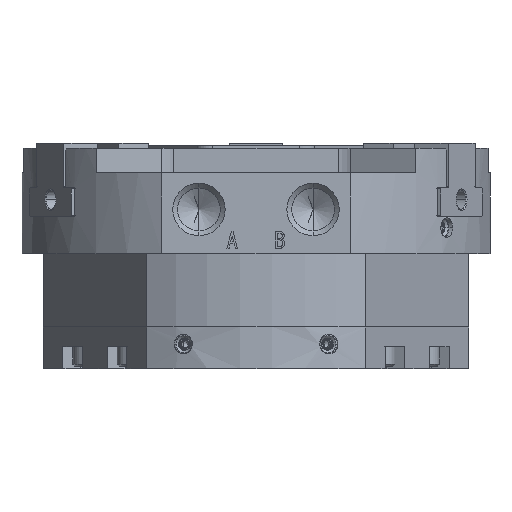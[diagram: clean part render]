
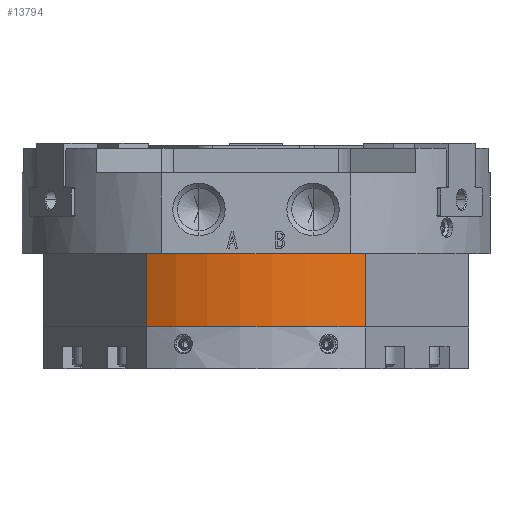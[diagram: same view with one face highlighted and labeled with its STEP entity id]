
A CAD part, front view. The second image highlights one B-rep face of the part: STEP entity #13794.
In plain terms, the highlighted cylindrical face has radius 43.5 mm (diameter 87 mm), a partial arc.
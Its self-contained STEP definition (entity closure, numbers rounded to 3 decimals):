
#676 = ORIENTED_EDGE ( 'NONE', *, *, #68263, .F. ) ;
#781 = VECTOR ( 'NONE', #10775, 1000. ) ;
#1142 = EDGE_LOOP ( 'NONE', ( #26590, #46588, #18511, #676 ) ) ;
#2138 = DIRECTION ( 'NONE',  ( 0., 0., 1. ) ) ;
#3396 = CARTESIAN_POINT ( 'NONE',  ( 22.323, -37.335, -21.5 ) ) ;
#5023 = CIRCLE ( 'NONE', #28686, 43.5 ) ;
#6502 = CARTESIAN_POINT ( 'NONE',  ( 22.323, -37.335, -36.5 ) ) ;
#8888 = DIRECTION ( 'NONE',  ( 0., 0., 1. ) ) ;
#9202 = DIRECTION ( 'NONE',  ( 1., 0., 0. ) ) ;
#10775 = DIRECTION ( 'NONE',  ( 0., 0., -1. ) ) ;
#11917 = EDGE_CURVE ( 'NONE', #16158, #68072, #31759, .T. ) ;
#13165 = EDGE_CURVE ( 'NONE', #16158, #54494, #35177, .T. ) ;
#13647 = DIRECTION ( 'NONE',  ( 1., 0., 0. ) ) ;
#13794 = ADVANCED_FACE ( 'NONE', ( #36199 ), #52266, .T. ) ;
#16158 = VERTEX_POINT ( 'NONE', #31930 ) ;
#18511 = ORIENTED_EDGE ( 'NONE', *, *, #52025, .F. ) ;
#22645 = DIRECTION ( 'NONE',  ( 1., 0., 0. ) ) ;
#24616 = AXIS2_PLACEMENT_3D ( 'NONE', #59750, #8888, #22645 ) ;
#26261 = VERTEX_POINT ( 'NONE', #3396 ) ;
#26590 = ORIENTED_EDGE ( 'NONE', *, *, #11917, .F. ) ;
#26989 = DIRECTION ( 'NONE',  ( 0., 0., 1. ) ) ;
#28686 = AXIS2_PLACEMENT_3D ( 'NONE', #65625, #71147, #9202 ) ;
#31759 = LINE ( 'NONE', #37676, #48954 ) ;
#31930 = CARTESIAN_POINT ( 'NONE',  ( -22.323, -37.335, -36.5 ) ) ;
#32937 = AXIS2_PLACEMENT_3D ( 'NONE', #58562, #2138, #13647 ) ;
#35177 = CIRCLE ( 'NONE', #24616, 43.5 ) ;
#36199 = FACE_OUTER_BOUND ( 'NONE', #1142, .T. ) ;
#37676 = CARTESIAN_POINT ( 'NONE',  ( -22.323, -37.335, 114.778 ) ) ;
#45236 = CARTESIAN_POINT ( 'NONE',  ( 22.323, -37.335, 114.778 ) ) ;
#46588 = ORIENTED_EDGE ( 'NONE', *, *, #13165, .T. ) ;
#48954 = VECTOR ( 'NONE', #26989, 1000. ) ;
#50102 = CARTESIAN_POINT ( 'NONE',  ( -22.323, -37.335, -21.5 ) ) ;
#52025 = EDGE_CURVE ( 'NONE', #26261, #54494, #67187, .T. ) ;
#52266 = CYLINDRICAL_SURFACE ( 'NONE', #32937, 43.5 ) ;
#54494 = VERTEX_POINT ( 'NONE', #6502 ) ;
#58562 = CARTESIAN_POINT ( 'NONE',  ( 0., 0., 114.778 ) ) ;
#59750 = CARTESIAN_POINT ( 'NONE',  ( 0., 0., -36.5 ) ) ;
#65625 = CARTESIAN_POINT ( 'NONE',  ( 0., 0., -21.5 ) ) ;
#67187 = LINE ( 'NONE', #45236, #781 ) ;
#68072 = VERTEX_POINT ( 'NONE', #50102 ) ;
#68263 = EDGE_CURVE ( 'NONE', #68072, #26261, #5023, .T. ) ;
#71147 = DIRECTION ( 'NONE',  ( 0., 0., 1. ) ) ;
